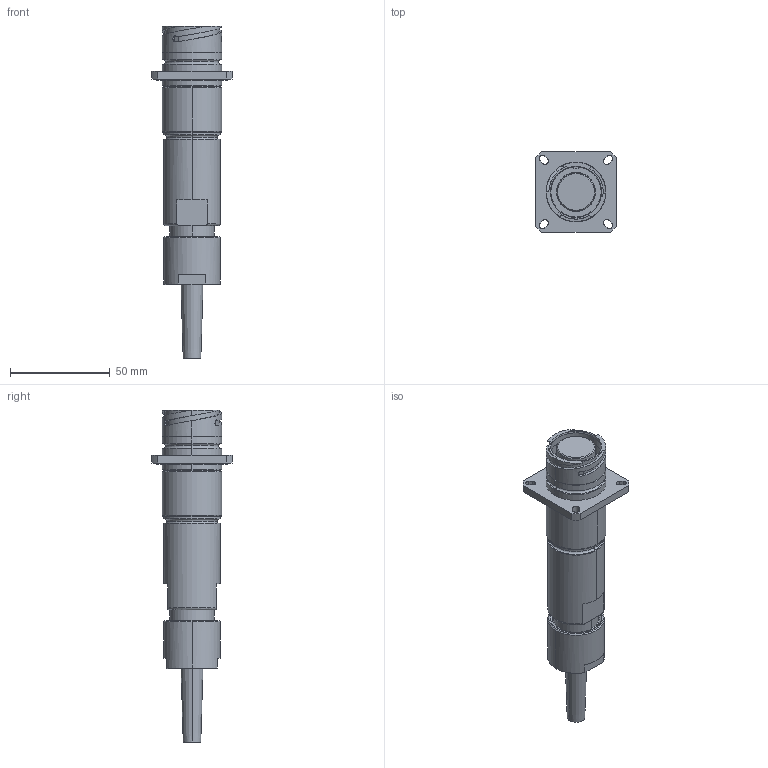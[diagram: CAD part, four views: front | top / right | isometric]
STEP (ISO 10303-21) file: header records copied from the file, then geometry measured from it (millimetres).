
FILE_DESCRIPTION (( 'STEP AP214' ), '1' );
FILE_NAME ('QLINK-RFBX-17XX-SXXX-RA.STEP', '2025-12-16T16:04:21', ( '' ), ( '' ), 'SwSTEP 2.0', 'SolidWorks 2024', '' );
FILE_SCHEMA (( 'AUTOMOTIVE_DESIGN' ));
Length unit declared in the file: millimetre
Products named in the file (1): QLINK-RFBX-17XX-SXXX-RA
Bounding box: 40.51 x 40.51 x 166.83 mm (x, y, z)
Volume: 85249.2 mm3; surface area: 22860.3 mm2
Topology: 2 solids, 2 shells, 196 faces, 469 edges, 297 vertices
Faces by surface type: cylinder 72, plane 56, torus 26, cone 25, bspline 17
Entity records: 9064 total; most frequent: CARTESIAN_POINT 4540, DIRECTION 956, ORIENTED_EDGE 938, EDGE_CURVE 469, AXIS2_PLACEMENT_3D 397, VERTEX_POINT 297, EDGE_LOOP 226, CIRCLE 217
